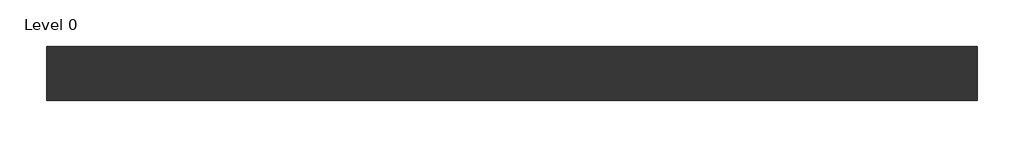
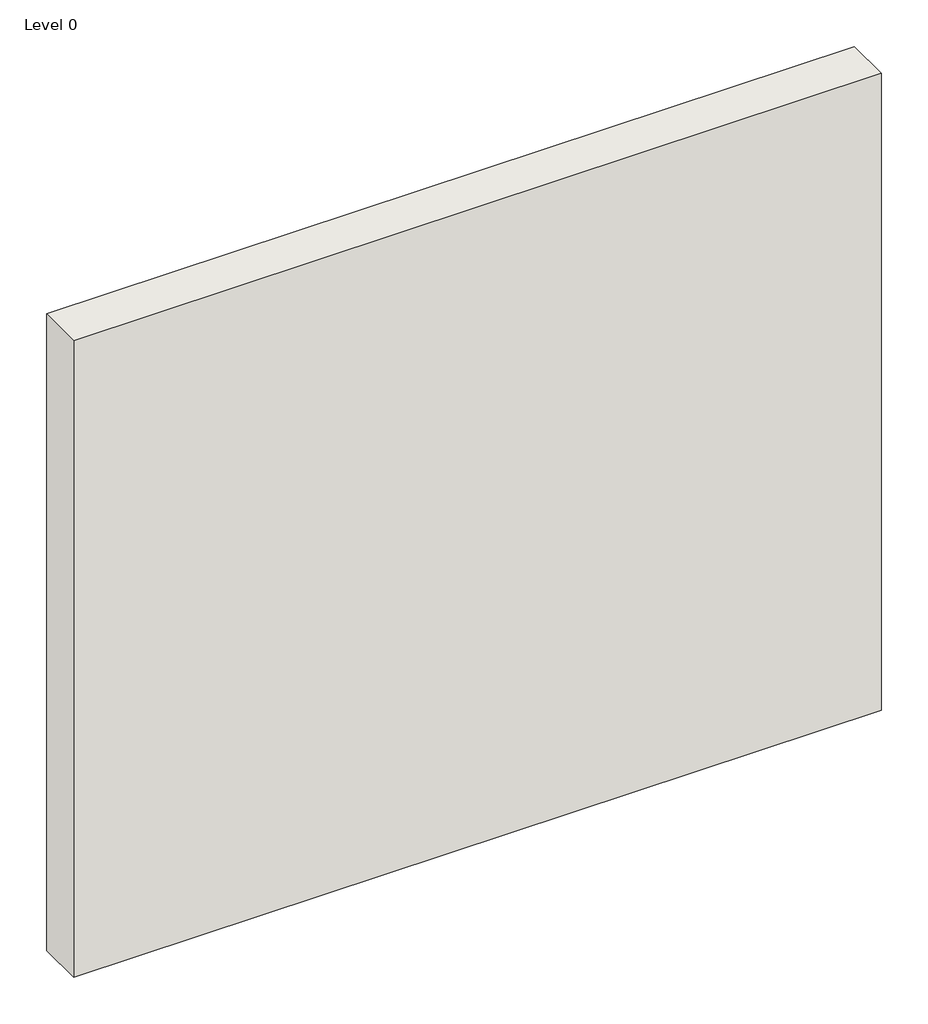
# One storey: 1 wall.
"""IFC4 building model written with IfcOpenShell, lengths in millimetres."""

from ifc_helpers import new_model, si_unit, origin, origin_with_axes, place, context, project, spatial, polyline, outline, extrude, element, save

model = new_model("IFC4")

# Units and contexts
model_context = context("Model", 3, world=origin())
ifc_project = project(units=[si_unit("LENGTHUNIT", "METRE", prefix="MILLI")], contexts=[model_context])

# Site, building, storey
site = spatial("IfcSite", under=ifc_project)
building = spatial("IfcBuilding", under=site)
storey = spatial("IfcBuildingStorey", under=building, Name="Level 0", Elevation=0.0)

# Wall
placement = place(None, origin())
element("IfcWall", 1, ObjectType="A316015 - GypWall QUIET SF", at=placement, inside=storey, context=model_context, shape_type="SweptSolid", body=[
    extrude(outline(polyline([(2116.0807354, 506.7205641), (-883.9192646, 506.7205641), (-883.9192646, 680.7205641), (2116.0807354, 680.7205641), (2116.0807354, 506.7205641)])), origin_with_axes(), (0.0, 0.0, 1.0), 2500.0),
])

save(model, "model.ifc")
